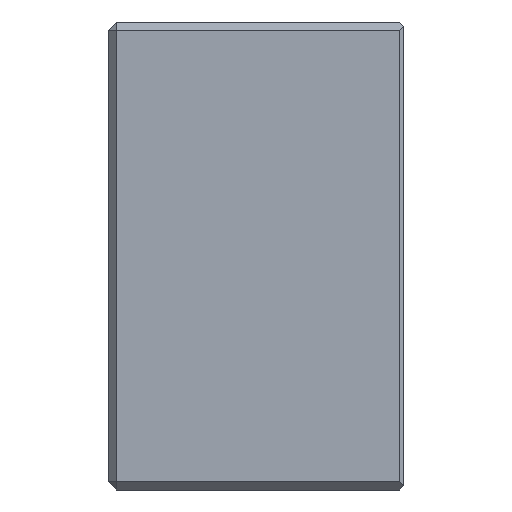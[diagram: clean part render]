
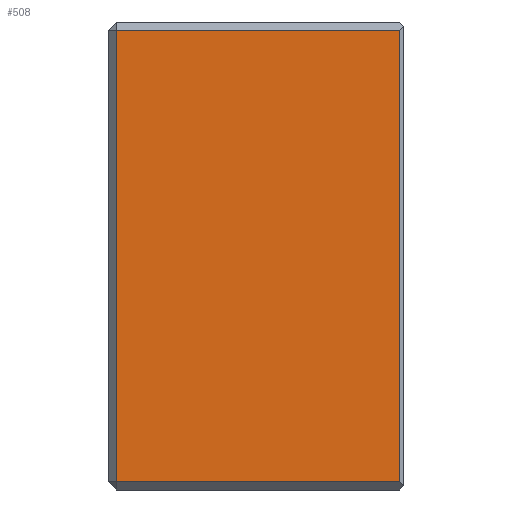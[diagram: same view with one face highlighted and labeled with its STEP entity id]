
A CAD part, left-side view. The second image highlights one B-rep face of the part: STEP entity #508.
In plain terms, the highlighted planar face has unit normal (-1, 0, 0).
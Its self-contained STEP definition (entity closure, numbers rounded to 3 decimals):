
#17 = EDGE_CURVE ( 'NONE', #1369, #919, #1438, .T. ) ;
#83 = CARTESIAN_POINT ( 'NONE',  ( -56., 36., 28.5 ) ) ;
#179 = PLANE ( 'NONE',  #830 ) ;
#212 = CARTESIAN_POINT ( 'NONE',  ( -56., 35., 28.5 ) ) ;
#219 = VECTOR ( 'NONE', #880, 1000. ) ;
#280 = CARTESIAN_POINT ( 'NONE',  ( -56., 0.5, 27.5 ) ) ;
#289 = DIRECTION ( 'NONE',  ( 0., -1., 0. ) ) ;
#316 = ORIENTED_EDGE ( 'NONE', *, *, #17, .T. ) ;
#363 = VERTEX_POINT ( 'NONE', #474 ) ;
#474 = CARTESIAN_POINT ( 'NONE',  ( -56., 0.5, 27.5 ) ) ;
#508 = ADVANCED_FACE ( 'NONE', ( #816 ), #179, .F. ) ;
#532 = CARTESIAN_POINT ( 'NONE',  ( -56., 35., 27.5 ) ) ;
#587 = LINE ( 'NONE', #212, #837 ) ;
#681 = ORIENTED_EDGE ( 'NONE', *, *, #843, .T. ) ;
#746 = LINE ( 'NONE', #280, #219 ) ;
#766 = VERTEX_POINT ( 'NONE', #532 ) ;
#799 = ORIENTED_EDGE ( 'NONE', *, *, #969, .T. ) ;
#802 = CARTESIAN_POINT ( 'NONE',  ( -56., 36., 27.5 ) ) ;
#816 = FACE_OUTER_BOUND ( 'NONE', #1365, .T. ) ;
#830 = AXIS2_PLACEMENT_3D ( 'NONE', #83, #901, #1266 ) ;
#833 = VECTOR ( 'NONE', #289, 1000. ) ;
#837 = VECTOR ( 'NONE', #1304, 1000. ) ;
#839 = ORIENTED_EDGE ( 'NONE', *, *, #1196, .T. ) ;
#843 = EDGE_CURVE ( 'NONE', #766, #1369, #587, .T. ) ;
#880 = DIRECTION ( 'NONE',  ( 0., 0., 1. ) ) ;
#901 = DIRECTION ( 'NONE',  ( 1., 0., 0. ) ) ;
#902 = CARTESIAN_POINT ( 'NONE',  ( -56., 0.5, -27.5 ) ) ;
#919 = VERTEX_POINT ( 'NONE', #902 ) ;
#939 = DIRECTION ( 'NONE',  ( 0., 1., 0. ) ) ;
#962 = CARTESIAN_POINT ( 'NONE',  ( -56., 35., -27.5 ) ) ;
#969 = EDGE_CURVE ( 'NONE', #363, #766, #1155, .T. ) ;
#1014 = CARTESIAN_POINT ( 'NONE',  ( -56., 36., -27.5 ) ) ;
#1155 = LINE ( 'NONE', #802, #1297 ) ;
#1196 = EDGE_CURVE ( 'NONE', #919, #363, #746, .T. ) ;
#1266 = DIRECTION ( 'NONE',  ( 0., 0., -1. ) ) ;
#1297 = VECTOR ( 'NONE', #939, 1000. ) ;
#1304 = DIRECTION ( 'NONE',  ( 0., 0., -1. ) ) ;
#1365 = EDGE_LOOP ( 'NONE', ( #316, #839, #799, #681 ) ) ;
#1369 = VERTEX_POINT ( 'NONE', #962 ) ;
#1438 = LINE ( 'NONE', #1014, #833 ) ;
